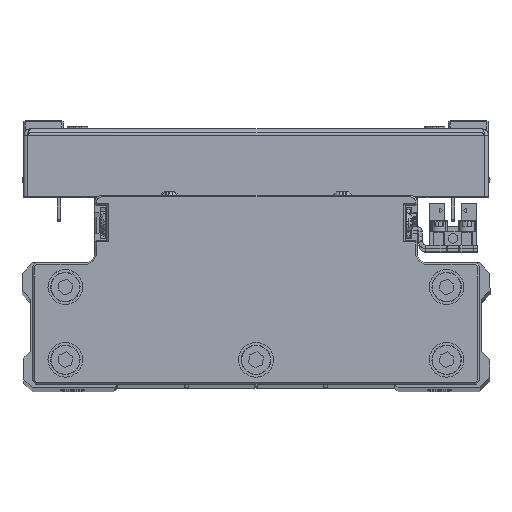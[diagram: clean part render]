
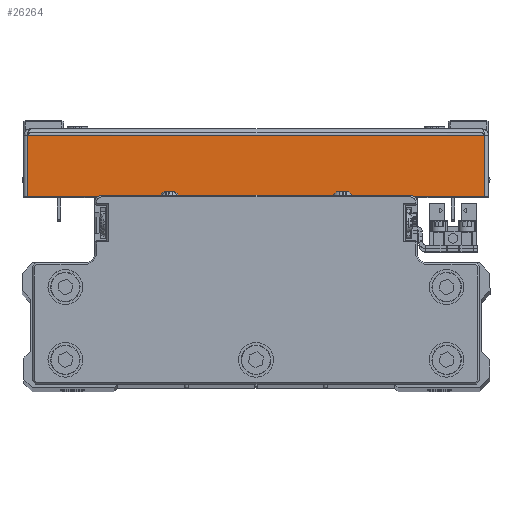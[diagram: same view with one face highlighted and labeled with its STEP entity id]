
A CAD part, top view. The second image highlights one B-rep face of the part: STEP entity #26264.
In plain terms, the highlighted planar face has unit normal (0, 0, 1) as drawn and (1, 0, 0) by its records, which use the part's own axes.
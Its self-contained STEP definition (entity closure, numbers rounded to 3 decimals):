
#563 = DIRECTION ( 'NONE',  ( 0., 0., 1. ) ) ;
#1142 = CARTESIAN_POINT ( 'NONE',  ( 100., 1., 67. ) ) ;
#2097 = EDGE_CURVE ( 'NONE', #2516, #39460, #5451, .T. ) ;
#2516 = VERTEX_POINT ( 'NONE', #15903 ) ;
#4185 = DIRECTION ( 'NONE',  ( -1., 0., 0. ) ) ;
#5451 = LINE ( 'NONE', #19080, #30466 ) ;
#6156 = AXIS2_PLACEMENT_3D ( 'NONE', #34806, #4185, #17812 ) ;
#6188 = EDGE_LOOP ( 'NONE', ( #37337, #16665, #38429, #34482 ) ) ;
#7054 = DIRECTION ( 'NONE',  ( 0., 1., 0. ) ) ;
#7548 = FACE_OUTER_BOUND ( 'NONE', #6188, .T. ) ;
#7917 = VECTOR ( 'NONE', #14770, 1000. ) ;
#9703 = EDGE_CURVE ( 'NONE', #10021, #18495, #24035, .T. ) ;
#10021 = VERTEX_POINT ( 'NONE', #12827 ) ;
#12827 = CARTESIAN_POINT ( 'NONE',  ( 100., 1., -65.929 ) ) ;
#14770 = DIRECTION ( 'NONE',  ( 0., 0., 1. ) ) ;
#15903 = CARTESIAN_POINT ( 'NONE',  ( 100., 1., 65.929 ) ) ;
#16665 = ORIENTED_EDGE ( 'NONE', *, *, #9703, .T. ) ;
#16705 = VECTOR ( 'NONE', #563, 1000. ) ;
#17526 = LINE ( 'NONE', #31171, #16705 ) ;
#17812 = DIRECTION ( 'NONE',  ( 0., -1., 0. ) ) ;
#18495 = VERTEX_POINT ( 'NONE', #36713 ) ;
#19080 = CARTESIAN_POINT ( 'NONE',  ( 100., 0., 65.929 ) ) ;
#21167 = PLANE ( 'NONE',  #6156 ) ;
#24035 = LINE ( 'NONE', #37667, #42943 ) ;
#26264 = ADVANCED_FACE ( 'NONE', ( #7548 ), #21167, .F. ) ;
#30466 = VECTOR ( 'NONE', #32709, 1000. ) ;
#31171 = CARTESIAN_POINT ( 'NONE',  ( 100., 18.5, 0. ) ) ;
#31389 = EDGE_CURVE ( 'NONE', #10021, #2516, #31755, .T. ) ;
#31755 = LINE ( 'NONE', #1142, #7917 ) ;
#32709 = DIRECTION ( 'NONE',  ( 0., 1., 0. ) ) ;
#34482 = ORIENTED_EDGE ( 'NONE', *, *, #2097, .F. ) ;
#34806 = CARTESIAN_POINT ( 'NONE',  ( 100., 0., 0. ) ) ;
#36713 = CARTESIAN_POINT ( 'NONE',  ( 100., 18.5, -65.929 ) ) ;
#37016 = CARTESIAN_POINT ( 'NONE',  ( 100., 18.5, 65.929 ) ) ;
#37337 = ORIENTED_EDGE ( 'NONE', *, *, #31389, .F. ) ;
#37667 = CARTESIAN_POINT ( 'NONE',  ( 100., 0., -65.929 ) ) ;
#38216 = EDGE_CURVE ( 'NONE', #18495, #39460, #17526, .T. ) ;
#38429 = ORIENTED_EDGE ( 'NONE', *, *, #38216, .T. ) ;
#39460 = VERTEX_POINT ( 'NONE', #37016 ) ;
#42943 = VECTOR ( 'NONE', #7054, 1000. ) ;
